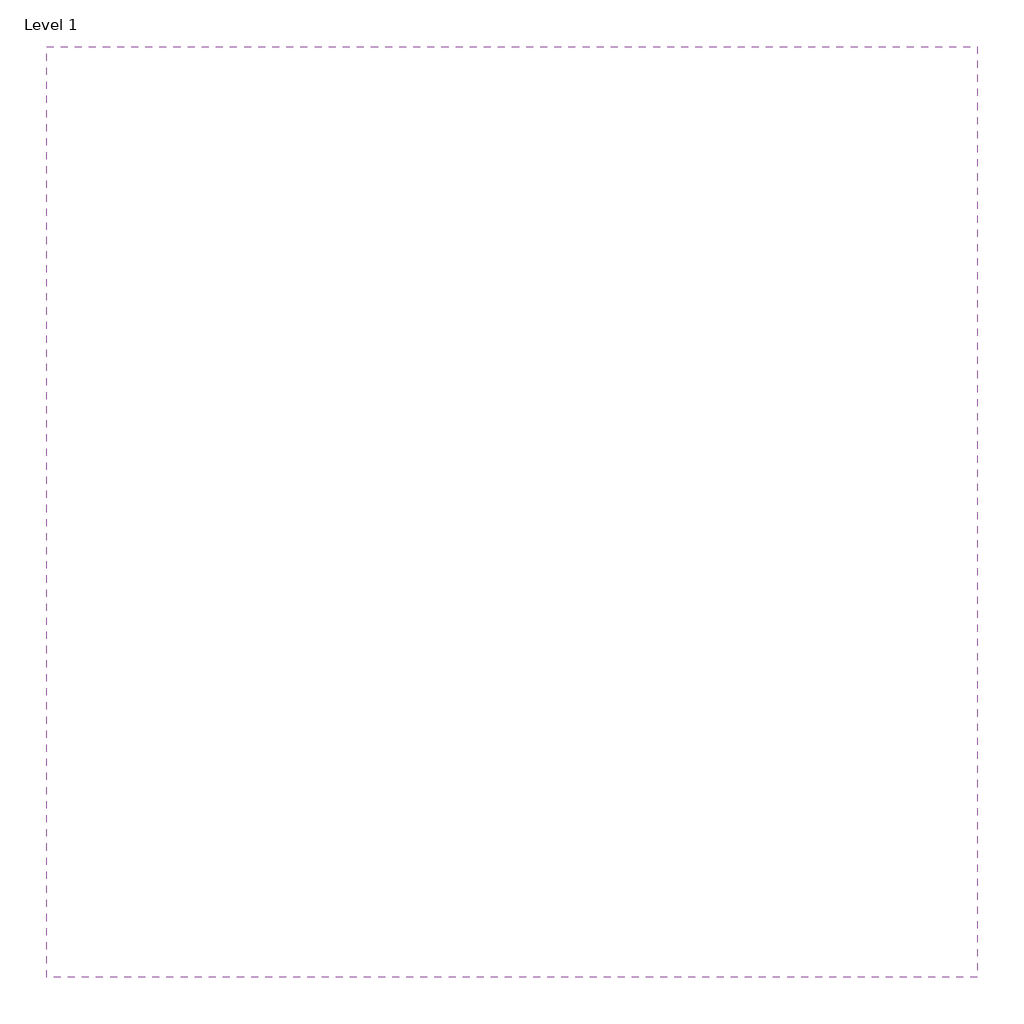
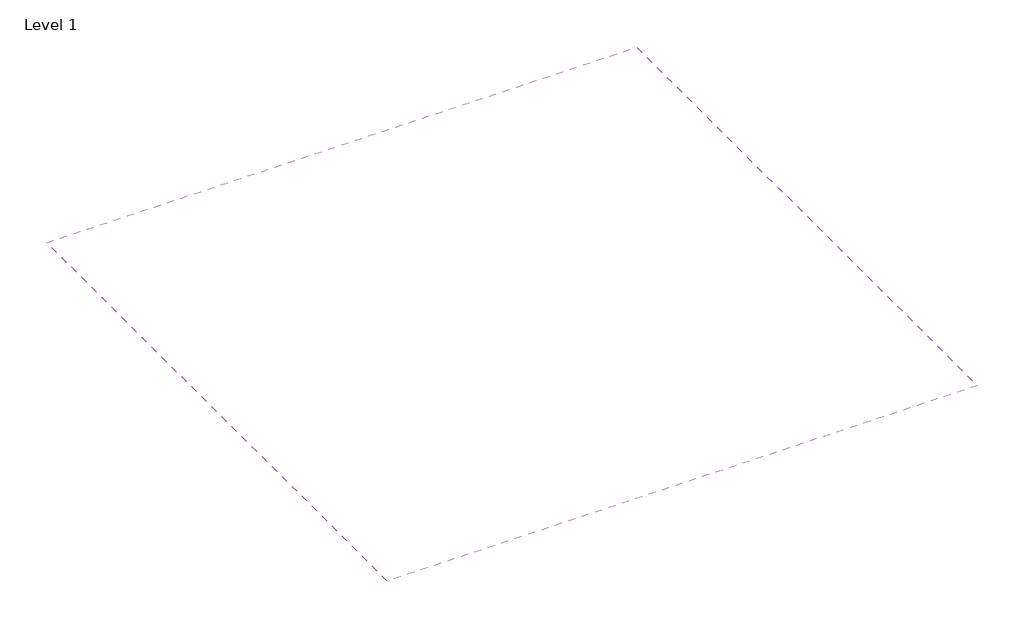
# One storey: 1 covering.
"""IFC4 building model written with IfcOpenShell, lengths in millimetres."""

from ifc_helpers import new_model, si_unit, frame, origin, place, context, project, spatial, polyline, outline, extrude, element, save

model = new_model("IFC4")

# Units and contexts
model_context = context("Model", 3, world=origin())
ifc_project = project(units=[si_unit("LENGTHUNIT", "METRE", prefix="MILLI")], contexts=[model_context])

# Site, building, storey
site = spatial("IfcSite", under=ifc_project)
building = spatial("IfcBuilding", under=site)
storey = spatial("IfcBuildingStorey", under=building, Name="Level 1", Elevation=0.0)

# Covering
placement = place(None, origin())
element("IfcCovering", 1, ObjectType="2x2 School Zone Fine Fissured 465 Armstrong", at=placement, inside=storey, context=model_context, shape_type="SweptSolid", body=[
    extrude(outline(polyline([(3010.4811584, 9336.3559943), (3010.4811584, -5294.0440057), (-11619.9188416, -5294.0440057), (-11619.9188416, 9336.3559943), (3010.4811584, 9336.3559943)])), frame((0.0, 0.0, 2438.4), z_axis=(0.0, 0.0, 1.0), x_axis=(1.0, 0.0, 0.0)), (0.0, 0.0, 1.0), 15.875),
])

save(model, "model.ifc")
